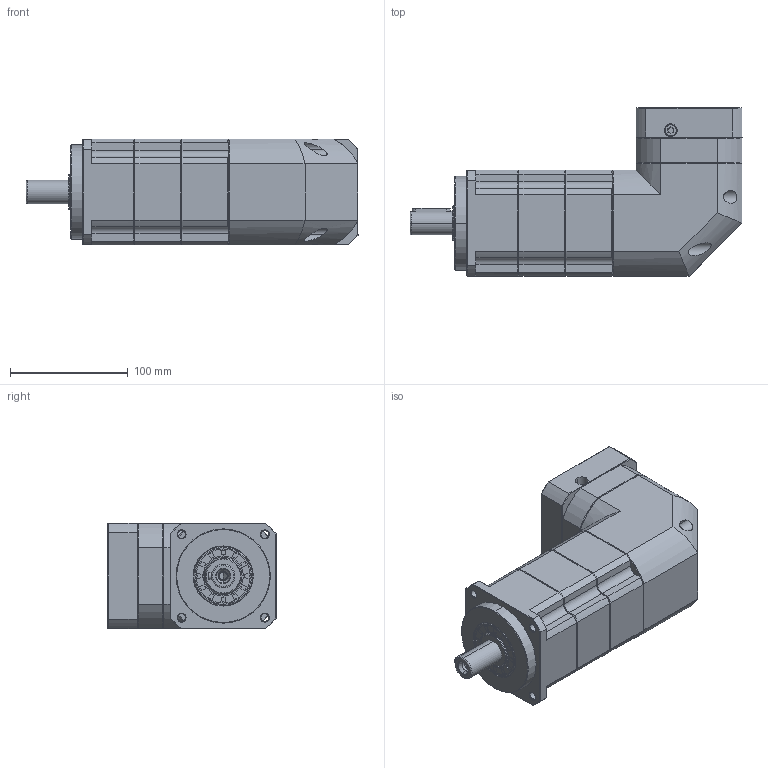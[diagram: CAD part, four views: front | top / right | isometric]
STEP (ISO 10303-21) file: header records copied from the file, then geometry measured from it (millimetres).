
FILE_DESCRIPTION (( 'STEP AP214' ), '1' );
FILE_NAME ('ZPBR090-D20-L3-P1-14-73-69.6X69.6-M6.step', '2024-06-07T18:32:44', ( 'Windows 蚚誧' ), ( 'Organization' ), 'SwSTEP 2.0', 'SolidWorks 2016', '' );
FILE_SCHEMA (( 'AUTOMOTIVE_DESIGN' ));
Length unit declared in the file: millimetre
Products named in the file (1): ZPBR090-D20-L3-P1-14-73-69.6X69.6-M6
Bounding box: 282 x 143 x 90 mm (x, y, z)
Surface area: 146567.5 mm2 (no closed solid volume)
Topology: 0 solids, 34 shells, 1955 faces, 5133 edges, 3262 vertices
Faces by surface type: plane 1040, bspline 373, cone 284, cylinder 241, torus 17
Full cylindrical faces by diameter (mm): 6.72 x1
Entity records: 95307 total; most frequent: CARTESIAN_POINT 46356, ORIENTED_EDGE 10216, DIRECTION 8066, EDGE_CURVE 5128, LINE 3372, VECTOR 3372, VERTEX_POINT 3260, AXIS2_PLACEMENT_3D 2347
